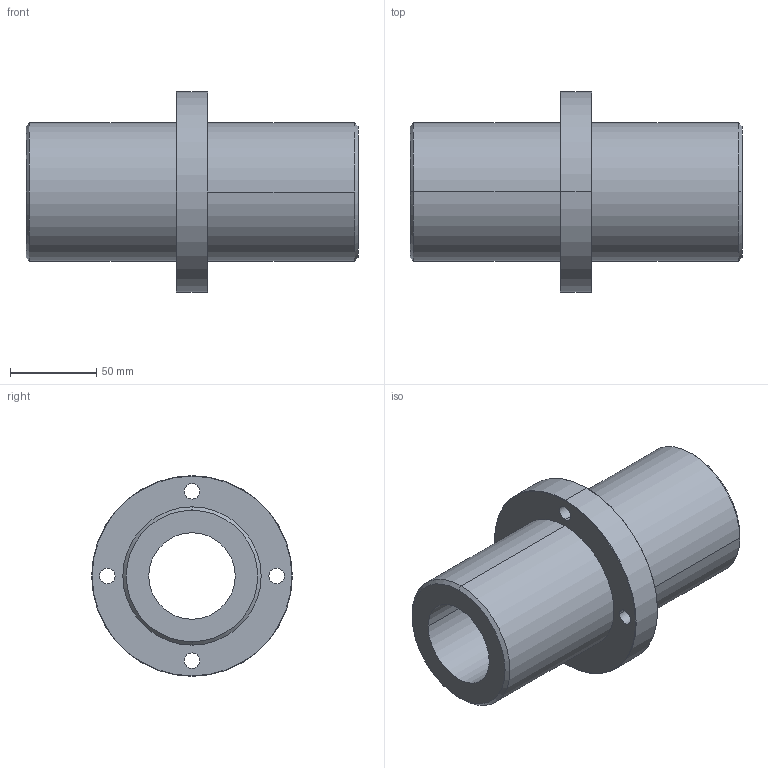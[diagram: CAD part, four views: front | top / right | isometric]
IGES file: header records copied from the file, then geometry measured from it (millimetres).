
Start section: 3D InterOp IGES (Version 21 0 1), Spatial Corp. Copyright (c) 1999-2007.
Global section: file name: CFPJR50.igs; native system: Spatial Corp.; preprocessor: 3D InterOp GENERIC/IGES 3.0; author: Noname; organization: Noname; date: 20220324.131339; units: millimetre
Bounding box: 192 x 116 x 116 mm (x, y, z)
Surface area: 98987.4 mm2 (no closed solid volume)
Topology: 0 solids, 0 shells, 40 faces, 180 edges, 180 vertices
Faces by surface type: revolution 32, extrusion 8
